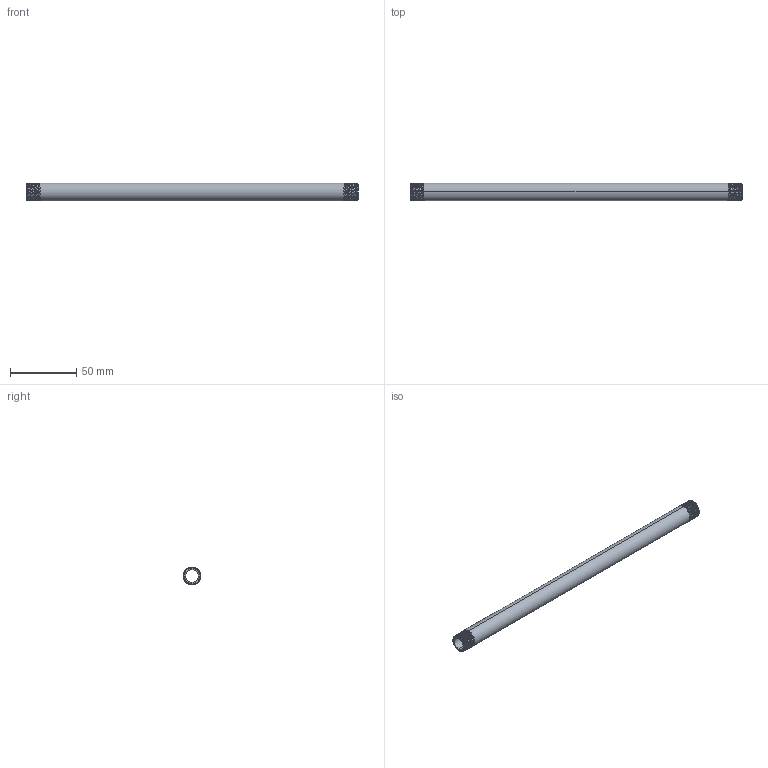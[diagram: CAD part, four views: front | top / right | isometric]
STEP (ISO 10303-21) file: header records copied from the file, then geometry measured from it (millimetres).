
FILE_DESCRIPTION (( 'STEP AP203' ), '1' );
FILE_NAME ('3D_R210_1-4x250_17185918.STEP', '2024-08-16T14:02:05', ( '' ), ( '' ), 'SwSTEP 2.0', 'SolidWorks 2024', '' );
FILE_SCHEMA (( 'CONFIG_CONTROL_DESIGN' ));
Length unit declared in the file: millimetre
Products named in the file (1): 3D_R210_1-4x250_17185918
Bounding box: 250 x 13.49 x 13.5 mm (x, y, z)
Volume: 17791.3 mm3; surface area: 18558.1 mm2
Topology: 1 solids, 1 shells, 60 faces, 166 edges, 108 vertices
Faces by surface type: cone 46, bspline 6, cylinder 4, plane 4
Entity records: 8741 total; most frequent: CARTESIAN_POINT 7339, ORIENTED_EDGE 332, DIRECTION 194, EDGE_CURVE 166, VERTEX_POINT 108, B_SPLINE_CURVE_WITH_KNOTS 88, AXIS2_PLACEMENT_3D 69, EDGE_LOOP 62
